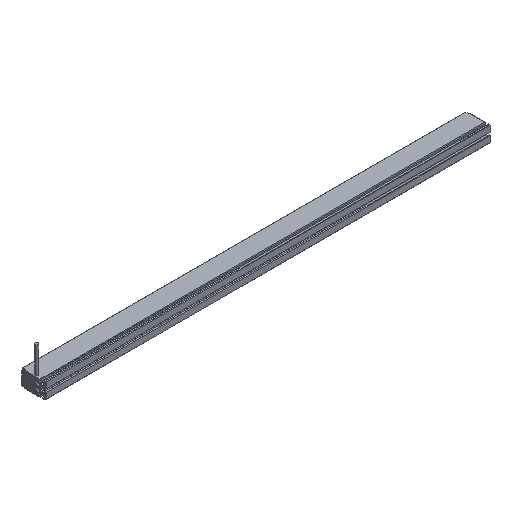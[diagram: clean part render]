
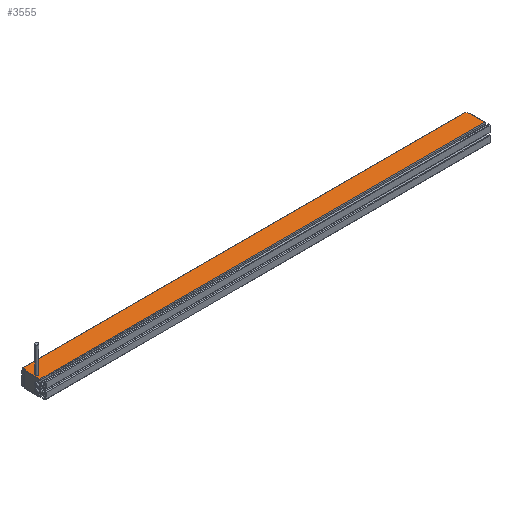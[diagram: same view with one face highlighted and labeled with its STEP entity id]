
A CAD part, isometric view. The second image highlights one B-rep face of the part: STEP entity #3555.
In plain terms, the highlighted planar face has unit normal (0, 0, 1) as drawn and (1, 0, 0) by its records, which use the part's own axes.
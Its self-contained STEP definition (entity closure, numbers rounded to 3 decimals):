
#332=DIRECTION('',(0.,1.,0.));
#333=VECTOR('',#332,17.499);
#334=CARTESIAN_POINT('',(9.,-4.3,-253.));
#335=LINE('',#334,#333);
#488=CARTESIAN_POINT('',(9.,2.3,250.25));
#489=DIRECTION('',(1.,0.,0.));
#490=DIRECTION('',(0.,0.,-1.));
#491=AXIS2_PLACEMENT_3D('',#488,#489,#490);
#493=CARTESIAN_POINT('',(9.,2.3,250.25));
#494=DIRECTION('',(1.,0.,0.));
#495=DIRECTION('',(0.,0.,1.));
#496=AXIS2_PLACEMENT_3D('',#493,#494,#495);
#498=DIRECTION('',(0.,-1.,0.));
#499=VECTOR('',#498,3.301);
#500=CARTESIAN_POINT('',(9.,16.5,-252.));
#501=LINE('',#500,#499);
#502=DIRECTION('',(0.,0.,-1.));
#503=VECTOR('',#502,1.);
#504=CARTESIAN_POINT('',(9.,13.199,-252.));
#505=LINE('',#504,#503);
#506=DIRECTION('',(0.,0.,1.));
#507=VECTOR('',#506,505.);
#508=CARTESIAN_POINT('',(9.,-4.3,-253.));
#509=LINE('',#508,#507);
#510=DIRECTION('',(0.,0.,-1.));
#511=VECTOR('',#510,504.);
#512=CARTESIAN_POINT('',(9.,16.5,252.));
#513=LINE('',#512,#511);
#552=DIRECTION('',(0.,-1.,0.));
#553=VECTOR('',#552,3.203);
#554=CARTESIAN_POINT('',(9.,16.5,252.));
#555=LINE('',#554,#553);
#556=DIRECTION('',(0.,-1.,0.));
#557=VECTOR('',#556,0.1);
#558=CARTESIAN_POINT('',(9.,-4.2,252.));
#559=LINE('',#558,#557);
#1959=DIRECTION('',(0.,0.,1.));
#1960=VECTOR('',#1959,1.);
#1961=CARTESIAN_POINT('',(9.,13.297,252.));
#1962=LINE('',#1961,#1960);
#1967=DIRECTION('',(0.,-1.,0.));
#1968=VECTOR('',#1967,17.497);
#1969=CARTESIAN_POINT('',(9.,13.297,253.));
#1970=LINE('',#1969,#1968);
#1983=DIRECTION('',(0.,0.,-1.));
#1984=VECTOR('',#1983,1.);
#1985=CARTESIAN_POINT('',(9.,-4.2,253.));
#1986=LINE('',#1985,#1984);
#2266=CARTESIAN_POINT('',(9.,13.297,253.));
#2268=VERTEX_POINT('',#2266);
#2271=CARTESIAN_POINT('',(9.,-4.2,253.));
#2272=VERTEX_POINT('',#2271);
#2499=CARTESIAN_POINT('',(9.,16.5,-252.));
#2501=VERTEX_POINT('',#2499);
#2505=CARTESIAN_POINT('',(9.,-4.3,252.));
#2507=VERTEX_POINT('',#2505);
#2517=CARTESIAN_POINT('',(9.,16.5,252.));
#2518=VERTEX_POINT('',#2517);
#2519=CARTESIAN_POINT('',(9.,2.3,252.));
#2521=VERTEX_POINT('',#2519);
#2525=CARTESIAN_POINT('',(9.,2.3,248.5));
#2526=VERTEX_POINT('',#2525);
#2533=CARTESIAN_POINT('',(9.,13.297,252.));
#2534=VERTEX_POINT('',#2533);
#2536=CARTESIAN_POINT('',(9.,-4.2,252.));
#2538=VERTEX_POINT('',#2536);
#2645=CARTESIAN_POINT('',(9.,13.199,-253.));
#2647=VERTEX_POINT('',#2645);
#2649=CARTESIAN_POINT('',(9.,-4.3,-253.));
#2650=VERTEX_POINT('',#2649);
#2689=CARTESIAN_POINT('',(9.,13.199,-252.));
#2691=VERTEX_POINT('',#2689);
#3526=CARTESIAN_POINT('',(9.,-4.2,252.));
#3527=DIRECTION('',(1.,0.,0.));
#3528=DIRECTION('',(0.,1.,0.));
#3529=AXIS2_PLACEMENT_3D('',#3526,#3527,#3528);
#3530=PLANE('',#3529);
#3531=ORIENTED_EDGE('',*,*,#2754,.T.);
#3532=ORIENTED_EDGE('',*,*,#3099,.T.);
#3533=ORIENTED_EDGE('',*,*,#3083,.F.);
#3534=ORIENTED_EDGE('',*,*,#3516,.T.);
#3536=ORIENTED_EDGE('',*,*,#3535,.F.);
#3538=ORIENTED_EDGE('',*,*,#3537,.F.);
#3540=ORIENTED_EDGE('',*,*,#3539,.F.);
#3542=ORIENTED_EDGE('',*,*,#3541,.F.);
#3544=ORIENTED_EDGE('',*,*,#3543,.F.);
#3546=ORIENTED_EDGE('',*,*,#3545,.T.);
#3547=EDGE_LOOP('',(#3531,#3532,#3533,#3534,#3536,#3538,#3540,#3542,#3544,
#3546));
#3548=FACE_OUTER_BOUND('',#3547,.F.);
#3550=ORIENTED_EDGE('',*,*,#3549,.T.);
#3552=ORIENTED_EDGE('',*,*,#3551,.T.);
#3553=EDGE_LOOP('',(#3550,#3552));
#3554=FACE_BOUND('',#3553,.F.);
#492=CIRCLE('',#491,1.75);
#497=CIRCLE('',#496,1.75);
#2754=EDGE_CURVE('',#2501,#2691,#501,.T.);
#3083=EDGE_CURVE('',#2650,#2647,#335,.T.);
#3099=EDGE_CURVE('',#2691,#2647,#505,.T.);
#3516=EDGE_CURVE('',#2650,#2507,#509,.T.);
#3535=EDGE_CURVE('',#2538,#2507,#559,.T.);
#3537=EDGE_CURVE('',#2272,#2538,#1986,.T.);
#3539=EDGE_CURVE('',#2268,#2272,#1970,.T.);
#3541=EDGE_CURVE('',#2534,#2268,#1962,.T.);
#3543=EDGE_CURVE('',#2518,#2534,#555,.T.);
#3545=EDGE_CURVE('',#2518,#2501,#513,.T.);
#3549=EDGE_CURVE('',#2526,#2521,#492,.T.);
#3551=EDGE_CURVE('',#2521,#2526,#497,.T.);
#3555=ADVANCED_FACE('',(#3548,#3554),#3530,.T.);
